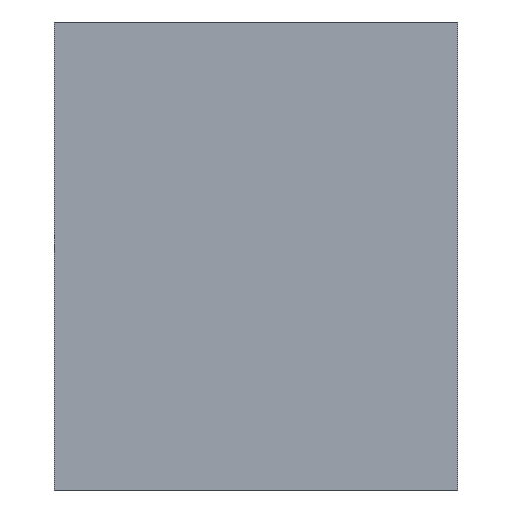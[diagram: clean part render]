
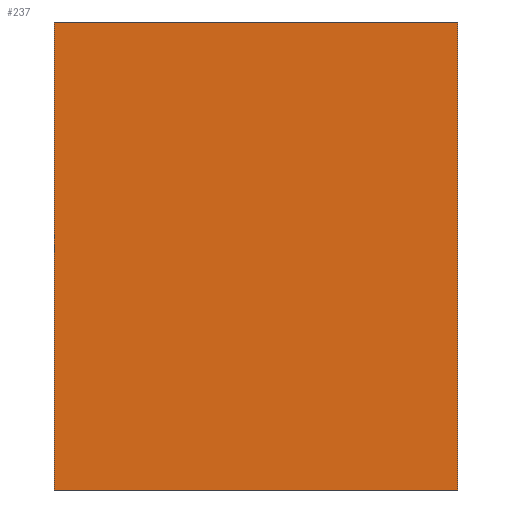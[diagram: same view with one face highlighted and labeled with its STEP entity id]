
A CAD part, front view. The second image highlights one B-rep face of the part: STEP entity #237.
In plain terms, the highlighted planar face has unit normal (0, -1, 0).
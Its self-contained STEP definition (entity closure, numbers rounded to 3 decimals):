
#21 = EDGE_CURVE('',#22,#24,#26,.T.);
#22 = VERTEX_POINT('',#23);
#23 = CARTESIAN_POINT('',(-35.5,1.45,-20.7));
#24 = VERTEX_POINT('',#25);
#25 = CARTESIAN_POINT('',(-35.5,1.45,-7.7));
#26 = SURFACE_CURVE('',#27,(#31,#43),.PCURVE_S1.);
#27 = LINE('',#28,#29);
#28 = CARTESIAN_POINT('',(-35.5,1.45,-20.7));
#29 = VECTOR('',#30,1.);
#30 = DIRECTION('',(0.,0.,1.));
#31 = PCURVE('',#32,#37);
#32 = PLANE('',#33);
#33 = AXIS2_PLACEMENT_3D('',#34,#35,#36);
#34 = CARTESIAN_POINT('',(-35.5,1.45,-20.7));
#35 = DIRECTION('',(1.,0.,-0.));
#36 = DIRECTION('',(0.,0.,1.));
#37 = DEFINITIONAL_REPRESENTATION('',(#38),#42);
#38 = LINE('',#39,#40);
#39 = CARTESIAN_POINT('',(0.,0.));
#40 = VECTOR('',#41,1.);
#41 = DIRECTION('',(1.,0.));
#42 = ( GEOMETRIC_REPRESENTATION_CONTEXT(2) 
PARAMETRIC_REPRESENTATION_CONTEXT() REPRESENTATION_CONTEXT('2D SPACE',''
  ) );
#43 = PCURVE('',#44,#49);
#44 = PLANE('',#45);
#45 = AXIS2_PLACEMENT_3D('',#46,#47,#48);
#46 = CARTESIAN_POINT('',(-35.5,1.45,-20.7));
#47 = DIRECTION('',(-0.,1.,0.));
#48 = DIRECTION('',(0.,0.,1.));
#49 = DEFINITIONAL_REPRESENTATION('',(#50),#54);
#50 = LINE('',#51,#52);
#51 = CARTESIAN_POINT('',(0.,0.));
#52 = VECTOR('',#53,1.);
#53 = DIRECTION('',(1.,0.));
#54 = ( GEOMETRIC_REPRESENTATION_CONTEXT(2) 
PARAMETRIC_REPRESENTATION_CONTEXT() REPRESENTATION_CONTEXT('2D SPACE',''
  ) );
#72 = PLANE('',#73);
#73 = AXIS2_PLACEMENT_3D('',#74,#75,#76);
#74 = CARTESIAN_POINT('',(-35.5,1.45,-20.7));
#75 = DIRECTION('',(0.,0.,1.));
#76 = DIRECTION('',(1.,0.,-0.));
#126 = PLANE('',#127);
#127 = AXIS2_PLACEMENT_3D('',#128,#129,#130);
#128 = CARTESIAN_POINT('',(-35.5,1.45,-7.7));
#129 = DIRECTION('',(0.,0.,1.));
#130 = DIRECTION('',(1.,0.,-0.));
#141 = EDGE_CURVE('',#142,#144,#146,.T.);
#142 = VERTEX_POINT('',#143);
#143 = CARTESIAN_POINT('',(-24.29,1.45,-20.7));
#144 = VERTEX_POINT('',#145);
#145 = CARTESIAN_POINT('',(-24.29,1.45,-7.7));
#146 = SURFACE_CURVE('',#147,(#151,#163),.PCURVE_S1.);
#147 = LINE('',#148,#149);
#148 = CARTESIAN_POINT('',(-24.29,1.45,-20.7));
#149 = VECTOR('',#150,1.);
#150 = DIRECTION('',(0.,0.,1.));
#151 = PCURVE('',#152,#157);
#152 = PLANE('',#153);
#153 = AXIS2_PLACEMENT_3D('',#154,#155,#156);
#154 = CARTESIAN_POINT('',(-24.29,1.45,-20.7));
#155 = DIRECTION('',(1.,0.,-0.));
#156 = DIRECTION('',(0.,0.,1.));
#157 = DEFINITIONAL_REPRESENTATION('',(#158),#162);
#158 = LINE('',#159,#160);
#159 = CARTESIAN_POINT('',(0.,0.));
#160 = VECTOR('',#161,1.);
#161 = DIRECTION('',(1.,0.));
#162 = ( GEOMETRIC_REPRESENTATION_CONTEXT(2) 
PARAMETRIC_REPRESENTATION_CONTEXT() REPRESENTATION_CONTEXT('2D SPACE',''
  ) );
#163 = PCURVE('',#44,#164);
#164 = DEFINITIONAL_REPRESENTATION('',(#165),#169);
#165 = LINE('',#166,#167);
#166 = CARTESIAN_POINT('',(0.,11.21));
#167 = VECTOR('',#168,1.);
#168 = DIRECTION('',(1.,0.));
#169 = ( GEOMETRIC_REPRESENTATION_CONTEXT(2) 
PARAMETRIC_REPRESENTATION_CONTEXT() REPRESENTATION_CONTEXT('2D SPACE',''
  ) );
#237 = ADVANCED_FACE('',(#238),#44,.F.);
#238 = FACE_BOUND('',#239,.F.);
#239 = EDGE_LOOP('',(#240,#261,#262,#283));
#240 = ORIENTED_EDGE('',*,*,#241,.F.);
#241 = EDGE_CURVE('',#22,#142,#242,.T.);
#242 = SURFACE_CURVE('',#243,(#247,#254),.PCURVE_S1.);
#243 = LINE('',#244,#245);
#244 = CARTESIAN_POINT('',(-35.5,1.45,-20.7));
#245 = VECTOR('',#246,1.);
#246 = DIRECTION('',(1.,0.,-0.));
#247 = PCURVE('',#44,#248);
#248 = DEFINITIONAL_REPRESENTATION('',(#249),#253);
#249 = LINE('',#250,#251);
#250 = CARTESIAN_POINT('',(0.,0.));
#251 = VECTOR('',#252,1.);
#252 = DIRECTION('',(0.,1.));
#253 = ( GEOMETRIC_REPRESENTATION_CONTEXT(2) 
PARAMETRIC_REPRESENTATION_CONTEXT() REPRESENTATION_CONTEXT('2D SPACE',''
  ) );
#254 = PCURVE('',#72,#255);
#255 = DEFINITIONAL_REPRESENTATION('',(#256),#260);
#256 = LINE('',#257,#258);
#257 = CARTESIAN_POINT('',(0.,0.));
#258 = VECTOR('',#259,1.);
#259 = DIRECTION('',(1.,0.));
#260 = ( GEOMETRIC_REPRESENTATION_CONTEXT(2) 
PARAMETRIC_REPRESENTATION_CONTEXT() REPRESENTATION_CONTEXT('2D SPACE',''
  ) );
#261 = ORIENTED_EDGE('',*,*,#21,.T.);
#262 = ORIENTED_EDGE('',*,*,#263,.T.);
#263 = EDGE_CURVE('',#24,#144,#264,.T.);
#264 = SURFACE_CURVE('',#265,(#269,#276),.PCURVE_S1.);
#265 = LINE('',#266,#267);
#266 = CARTESIAN_POINT('',(-35.5,1.45,-7.7));
#267 = VECTOR('',#268,1.);
#268 = DIRECTION('',(1.,0.,-0.));
#269 = PCURVE('',#44,#270);
#270 = DEFINITIONAL_REPRESENTATION('',(#271),#275);
#271 = LINE('',#272,#273);
#272 = CARTESIAN_POINT('',(13.,0.));
#273 = VECTOR('',#274,1.);
#274 = DIRECTION('',(0.,1.));
#275 = ( GEOMETRIC_REPRESENTATION_CONTEXT(2) 
PARAMETRIC_REPRESENTATION_CONTEXT() REPRESENTATION_CONTEXT('2D SPACE',''
  ) );
#276 = PCURVE('',#126,#277);
#277 = DEFINITIONAL_REPRESENTATION('',(#278),#282);
#278 = LINE('',#279,#280);
#279 = CARTESIAN_POINT('',(0.,0.));
#280 = VECTOR('',#281,1.);
#281 = DIRECTION('',(1.,0.));
#282 = ( GEOMETRIC_REPRESENTATION_CONTEXT(2) 
PARAMETRIC_REPRESENTATION_CONTEXT() REPRESENTATION_CONTEXT('2D SPACE',''
  ) );
#283 = ORIENTED_EDGE('',*,*,#141,.F.);
